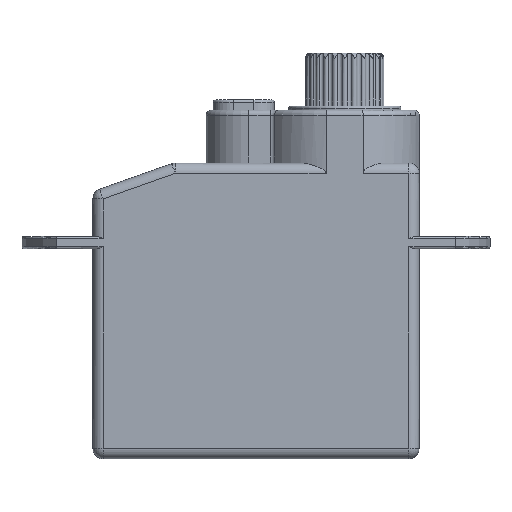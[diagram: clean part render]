
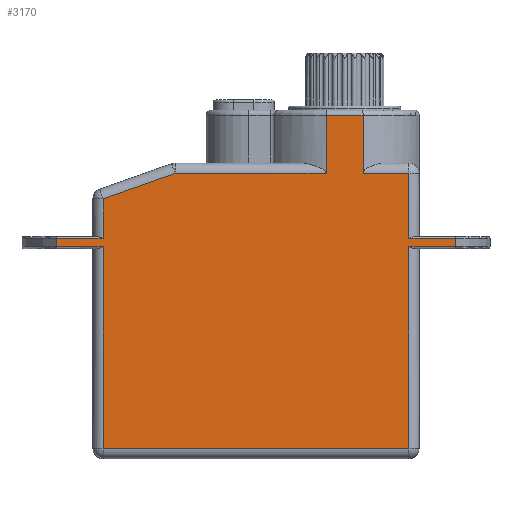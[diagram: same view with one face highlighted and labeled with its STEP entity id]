
A CAD part, top view. The second image highlights one B-rep face of the part: STEP entity #3170.
In plain terms, the highlighted planar face has unit normal (0, 0, 1).
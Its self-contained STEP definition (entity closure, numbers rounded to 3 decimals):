
#238=DIRECTION('',(0.,1.,0.));
#239=VECTOR('',#238,9.9);
#240=CARTESIAN_POINT('',(7.5,0.5,4.1));
#241=LINE('',#240,#239);
#252=DIRECTION('',(1.,0.,0.));
#253=VECTOR('',#252,2.302);
#254=CARTESIAN_POINT('',(7.5,10.8,4.1));
#255=LINE('',#254,#253);
#256=DIRECTION('',(0.,1.,0.));
#257=VECTOR('',#256,0.4);
#258=CARTESIAN_POINT('',(9.802,10.4,4.1));
#259=LINE('',#258,#257);
#260=DIRECTION('',(-1.,0.,0.));
#261=VECTOR('',#260,2.302);
#262=CARTESIAN_POINT('',(9.802,10.4,4.1));
#263=LINE('',#262,#261);
#264=DIRECTION('',(-1.,0.,0.));
#265=VECTOR('',#264,15.);
#266=CARTESIAN_POINT('',(7.5,0.5,4.1));
#267=LINE('',#266,#265);
#268=DIRECTION('',(-1.,0.,0.));
#269=VECTOR('',#268,2.302);
#270=CARTESIAN_POINT('',(-7.5,10.4,4.1));
#271=LINE('',#270,#269);
#272=DIRECTION('',(0.,1.,0.));
#273=VECTOR('',#272,0.4);
#274=CARTESIAN_POINT('',(-9.802,10.4,4.1));
#275=LINE('',#274,#273);
#276=DIRECTION('',(1.,0.,0.));
#277=VECTOR('',#276,2.302);
#278=CARTESIAN_POINT('',(-9.802,10.8,4.1));
#279=LINE('',#278,#277);
#280=DIRECTION('',(0.943,0.334,0.));
#281=VECTOR('',#280,3.752);
#282=CARTESIAN_POINT('',(-7.5,12.747,4.1));
#283=LINE('',#282,#281);
#284=DIRECTION('',(1.,0.,0.));
#285=VECTOR('',#284,7.403);
#286=CARTESIAN_POINT('',(-3.964,14.,4.1));
#287=LINE('',#286,#285);
#288=DIRECTION('',(1.,0.,0.));
#289=VECTOR('',#288,1.812);
#290=CARTESIAN_POINT('',(3.439,16.85,4.1));
#291=LINE('',#290,#289);
#292=DIRECTION('',(1.,0.,0.));
#293=VECTOR('',#292,2.249);
#294=CARTESIAN_POINT('',(5.251,14.,4.1));
#295=LINE('',#294,#293);
#380=DIRECTION('',(0.,1.,0.));
#381=VECTOR('',#380,3.2);
#382=CARTESIAN_POINT('',(7.5,10.8,4.1));
#383=LINE('',#382,#381);
#1836=DIRECTION('',(0.,-1.,0.));
#1837=VECTOR('',#1836,2.85);
#1838=CARTESIAN_POINT('',(3.439,16.85,4.1));
#1839=LINE('',#1838,#1837);
#1910=DIRECTION('',(0.,-1.,0.));
#1911=VECTOR('',#1910,1.947);
#1912=CARTESIAN_POINT('',(-7.5,12.747,4.1));
#1913=LINE('',#1912,#1911);
#2060=DIRECTION('',(0.,-1.,0.));
#2061=VECTOR('',#2060,9.9);
#2062=CARTESIAN_POINT('',(-7.5,10.4,4.1));
#2063=LINE('',#2062,#2061);
#2248=DIRECTION('',(0.,1.,0.));
#2249=VECTOR('',#2248,2.85);
#2250=CARTESIAN_POINT('',(5.251,14.,4.1));
#2251=LINE('',#2250,#2249);
#2542=CARTESIAN_POINT('',(7.5,0.5,4.1));
#2543=VERTEX_POINT('',#2542);
#2546=CARTESIAN_POINT('',(-7.5,0.5,4.1));
#2547=VERTEX_POINT('',#2546);
#2550=CARTESIAN_POINT('',(-3.964,14.,4.1));
#2551=CARTESIAN_POINT('',(3.439,14.,4.1));
#2552=VERTEX_POINT('',#2550);
#2553=VERTEX_POINT('',#2551);
#2562=CARTESIAN_POINT('',(-7.5,12.747,4.1));
#2563=VERTEX_POINT('',#2562);
#2590=CARTESIAN_POINT('',(7.5,14.,4.1));
#2591=VERTEX_POINT('',#2590);
#2594=CARTESIAN_POINT('',(5.251,14.,4.1));
#2595=VERTEX_POINT('',#2594);
#2616=CARTESIAN_POINT('',(3.439,16.85,4.1));
#2617=VERTEX_POINT('',#2616);
#2620=CARTESIAN_POINT('',(5.251,16.85,4.1));
#2621=VERTEX_POINT('',#2620);
#2688=CARTESIAN_POINT('',(7.5,10.8,4.1));
#2689=CARTESIAN_POINT('',(9.802,10.8,4.1));
#2690=VERTEX_POINT('',#2688);
#2691=VERTEX_POINT('',#2689);
#2700=CARTESIAN_POINT('',(9.802,10.4,4.1));
#2701=CARTESIAN_POINT('',(7.5,10.4,4.1));
#2702=VERTEX_POINT('',#2700);
#2703=VERTEX_POINT('',#2701);
#2716=CARTESIAN_POINT('',(-9.802,10.8,4.1));
#2717=CARTESIAN_POINT('',(-7.5,10.8,4.1));
#2718=VERTEX_POINT('',#2716);
#2719=VERTEX_POINT('',#2717);
#2728=CARTESIAN_POINT('',(-7.5,10.4,4.1));
#2729=CARTESIAN_POINT('',(-9.802,10.4,4.1));
#2730=VERTEX_POINT('',#2728);
#2731=VERTEX_POINT('',#2729);
#3130=CARTESIAN_POINT('',(-8.,0.,4.1));
#3131=DIRECTION('',(0.,0.,1.));
#3132=DIRECTION('',(1.,0.,0.));
#3133=AXIS2_PLACEMENT_3D('',#3130,#3131,#3132);
#3134=PLANE('',#3133);
#3136=ORIENTED_EDGE('',*,*,#3135,.T.);
#3138=ORIENTED_EDGE('',*,*,#3137,.F.);
#3140=ORIENTED_EDGE('',*,*,#3139,.T.);
#3141=ORIENTED_EDGE('',*,*,#3120,.F.);
#3143=ORIENTED_EDGE('',*,*,#3142,.T.);
#3145=ORIENTED_EDGE('',*,*,#3144,.F.);
#3147=ORIENTED_EDGE('',*,*,#3146,.T.);
#3149=ORIENTED_EDGE('',*,*,#3148,.T.);
#3151=ORIENTED_EDGE('',*,*,#3150,.T.);
#3153=ORIENTED_EDGE('',*,*,#3152,.F.);
#3155=ORIENTED_EDGE('',*,*,#3154,.T.);
#3157=ORIENTED_EDGE('',*,*,#3156,.T.);
#3159=ORIENTED_EDGE('',*,*,#3158,.F.);
#3161=ORIENTED_EDGE('',*,*,#3160,.T.);
#3163=ORIENTED_EDGE('',*,*,#3162,.F.);
#3165=ORIENTED_EDGE('',*,*,#3164,.T.);
#3167=ORIENTED_EDGE('',*,*,#3166,.F.);
#3168=EDGE_LOOP('',(#3136,#3138,#3140,#3141,#3143,#3145,#3147,#3149,#3151,#3153,
#3155,#3157,#3159,#3161,#3163,#3165,#3167));
#3169=FACE_OUTER_BOUND('',#3168,.F.);
#3120=EDGE_CURVE('',#2543,#2703,#241,.T.);
#3135=EDGE_CURVE('',#2690,#2691,#255,.T.);
#3137=EDGE_CURVE('',#2702,#2691,#259,.T.);
#3139=EDGE_CURVE('',#2702,#2703,#263,.T.);
#3142=EDGE_CURVE('',#2543,#2547,#267,.T.);
#3144=EDGE_CURVE('',#2730,#2547,#2063,.T.);
#3146=EDGE_CURVE('',#2730,#2731,#271,.T.);
#3148=EDGE_CURVE('',#2731,#2718,#275,.T.);
#3150=EDGE_CURVE('',#2718,#2719,#279,.T.);
#3152=EDGE_CURVE('',#2563,#2719,#1913,.T.);
#3154=EDGE_CURVE('',#2563,#2552,#283,.T.);
#3156=EDGE_CURVE('',#2552,#2553,#287,.T.);
#3158=EDGE_CURVE('',#2617,#2553,#1839,.T.);
#3160=EDGE_CURVE('',#2617,#2621,#291,.T.);
#3162=EDGE_CURVE('',#2595,#2621,#2251,.T.);
#3164=EDGE_CURVE('',#2595,#2591,#295,.T.);
#3166=EDGE_CURVE('',#2690,#2591,#383,.T.);
#3170=ADVANCED_FACE('',(#3169),#3134,.T.);
